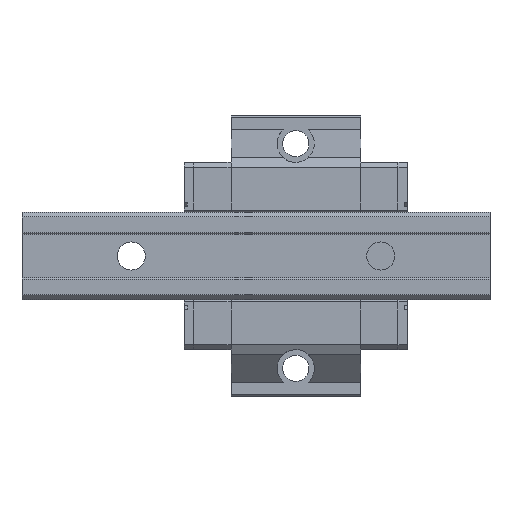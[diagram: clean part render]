
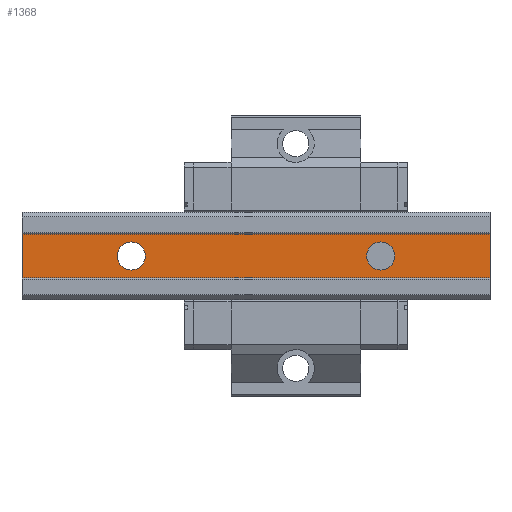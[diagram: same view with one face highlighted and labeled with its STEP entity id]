
A CAD part, front view. The second image highlights one B-rep face of the part: STEP entity #1368.
In plain terms, the highlighted planar face has unit normal (0, -1, 0).
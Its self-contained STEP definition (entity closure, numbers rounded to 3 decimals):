
#1368 = ADVANCED_FACE( '', ( #2764, #2765, #2766 ), #2767, .F. );
#2764 = FACE_BOUND( '', #4198, .T. );
#2765 = FACE_BOUND( '', #4199, .T. );
#2766 = FACE_OUTER_BOUND( '', #4200, .T. );
#2767 = PLANE( '', #4201 );
#4198 = EDGE_LOOP( '', ( #7772 ) );
#4199 = EDGE_LOOP( '', ( #7773 ) );
#4200 = EDGE_LOOP( '', ( #7774, #7775, #7776, #7777 ) );
#4201 = AXIS2_PLACEMENT_3D( '', #7778, #7779, #7780 );
#7772 = ORIENTED_EDGE( '', *, *, #10077, .F. );
#7773 = ORIENTED_EDGE( '', *, *, #8741, .F. );
#7774 = ORIENTED_EDGE( '', *, *, #10078, .T. );
#7775 = ORIENTED_EDGE( '', *, *, #10079, .F. );
#7776 = ORIENTED_EDGE( '', *, *, #9139, .F. );
#7777 = ORIENTED_EDGE( '', *, *, #9360, .T. );
#7778 = CARTESIAN_POINT( '', ( 75., 0.5, 7. ) );
#7779 = DIRECTION( '', ( 0., 1., 0. ) );
#7780 = DIRECTION( '', ( 0., 0., 1. ) );
#8741 = EDGE_CURVE( '', #10444, #10444, #10445, .F. );
#9139 = EDGE_CURVE( '', #11141, #11143, #11144, .T. );
#9360 = EDGE_CURVE( '', #11141, #11502, #11504, .T. );
#10077 = EDGE_CURVE( '', #12455, #12455, #12456, .F. );
#10078 = EDGE_CURVE( '', #11502, #12457, #12458, .T. );
#10079 = EDGE_CURVE( '', #11143, #12457, #12459, .T. );
#10444 = VERTEX_POINT( '', #12924 );
#10445 = CIRCLE( '', #12925, 4.5 );
#11141 = VERTEX_POINT( '', #13968 );
#11143 = VERTEX_POINT( '', #13971 );
#11144 = LINE( '', #13972, #13973 );
#11502 = VERTEX_POINT( '', #14491 );
#11504 = LINE( '', #14494, #14495 );
#12455 = VERTEX_POINT( '', #15921 );
#12456 = CIRCLE( '', #15922, 4.5 );
#12457 = VERTEX_POINT( '', #15923 );
#12458 = LINE( '', #15924, #15925 );
#12459 = LINE( '', #15926, #15927 );
#12924 = CARTESIAN_POINT( '', ( -40., 0.5, 4.5 ) );
#12925 = AXIS2_PLACEMENT_3D( '', #16258, #16259, #16260 );
#13968 = CARTESIAN_POINT( '', ( 75., 0.5, 7. ) );
#13971 = CARTESIAN_POINT( '', ( 75., 0.5, -7. ) );
#13972 = CARTESIAN_POINT( '', ( 75., 0.5, 7. ) );
#13973 = VECTOR( '', #16684, 1000. );
#14491 = CARTESIAN_POINT( '', ( -75., 0.5, 7. ) );
#14494 = CARTESIAN_POINT( '', ( 75., 0.5, 7. ) );
#14495 = VECTOR( '', #16921, 1000. );
#15921 = CARTESIAN_POINT( '', ( 40., 0.5, 4.5 ) );
#15922 = AXIS2_PLACEMENT_3D( '', #17510, #17511, #17512 );
#15923 = CARTESIAN_POINT( '', ( -75., 0.5, -7. ) );
#15924 = CARTESIAN_POINT( '', ( -75., 0.5, 7. ) );
#15925 = VECTOR( '', #17513, 1000. );
#15926 = CARTESIAN_POINT( '', ( 75., 0.5, -7. ) );
#15927 = VECTOR( '', #17514, 1000. );
#16258 = CARTESIAN_POINT( '', ( -40., 0.5, 0. ) );
#16259 = DIRECTION( '', ( 0., 1., 0. ) );
#16260 = DIRECTION( '', ( 0., 0., 1. ) );
#16684 = DIRECTION( '', ( 0., 0., -1. ) );
#16921 = DIRECTION( '', ( -1., 0., 0. ) );
#17510 = CARTESIAN_POINT( '', ( 40., 0.5, 0. ) );
#17511 = DIRECTION( '', ( 0., 1., 0. ) );
#17512 = DIRECTION( '', ( 0., 0., 1. ) );
#17513 = DIRECTION( '', ( 0., 0., -1. ) );
#17514 = DIRECTION( '', ( -1., 0., 0. ) );
